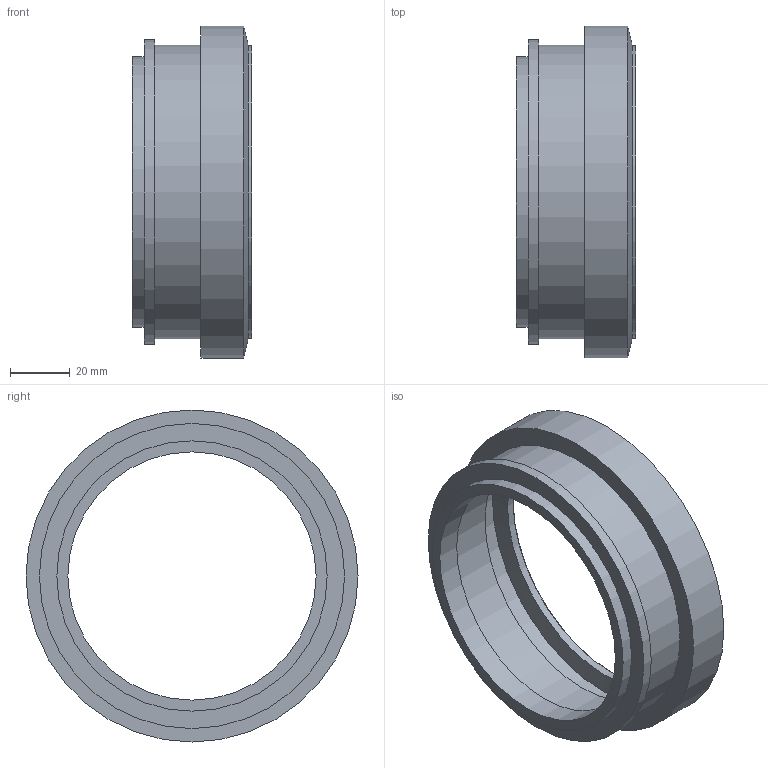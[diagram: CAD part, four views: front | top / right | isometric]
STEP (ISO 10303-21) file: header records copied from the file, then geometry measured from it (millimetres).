
FILE_DESCRIPTION(/* description */ (''),/* implementation_level */ '2;1');
FILE_NAME(/* name */ 'Z:\Geberit\Export\NewStep\366941.stp',/* time_stamp */ '2014-04-02T07:55:18+02:00',/* author */ ('nelson'),/* organization */ (''),/* preprocessor_version */ 'ST-DEVELOPER v15.2',/* originating_system */ 'Autodesk Inventor 2014',/* authorisation */ '');
FILE_SCHEMA (('AUTOMOTIVE_DESIGN { 1 0 10303 214 3 1 1 }'));
Length unit declared in the file: millimetre
Products named in the file (1): 366941
Bounding box: 40 x 111 x 111 mm (x, y, z)
Volume: 56391.9 mm3; surface area: 37397.4 mm2
Topology: 1 solids, 1 shells, 19 faces, 31 edges, 19 vertices
Faces by surface type: cylinder 9, plane 7, cone 3
Full cylindrical faces by diameter (mm): 83.02 x1, 90.38 x1, 91.45 x1, 92.2 x1, 98 x1, 98.2 x1, 102 x1, 104.7 x1, 111 x1
Entity records: 409 total; most frequent: DIRECTION 78, CARTESIAN_POINT 58, AXIS2_PLACEMENT_3D 39, EDGE_LOOP 38, ORIENTED_EDGE 38, FACE_BOUND 23, CIRCLE 19, VERTEX_POINT 19
